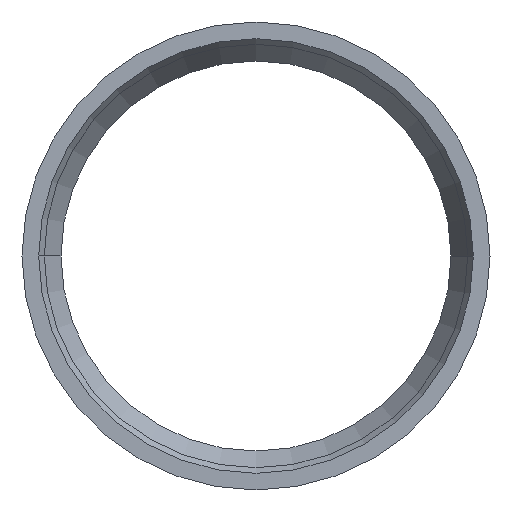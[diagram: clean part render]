
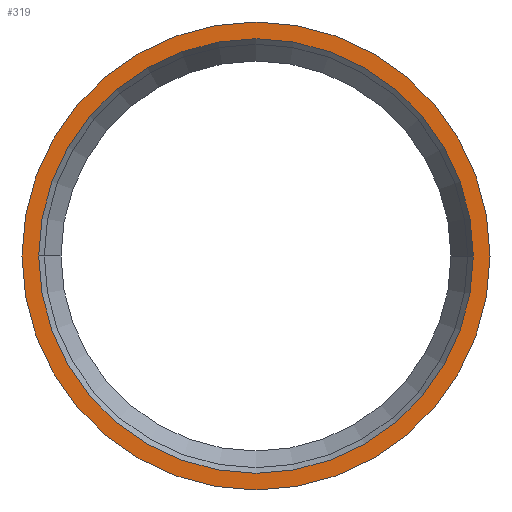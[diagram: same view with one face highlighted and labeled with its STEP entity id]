
A CAD part, left-side view. The second image highlights one B-rep face of the part: STEP entity #319.
In plain terms, the highlighted planar face has unit normal (-1, 0, 0).
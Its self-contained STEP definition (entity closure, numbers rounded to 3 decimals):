
#15 = AXIS2_PLACEMENT_3D ( 'NONE', #157, #155, #154 ) ;
#22 = EDGE_CURVE ( 'NONE', #151, #282, #42, .T. ) ;
#42 = CIRCLE ( 'NONE', #390, 21. ) ;
#47 = EDGE_CURVE ( 'NONE', #282, #151, #428, .T. ) ;
#57 = EDGE_CURVE ( 'NONE', #386, #204, #89, .T. ) ;
#70 = CIRCLE ( 'NONE', #467, 19.5 ) ;
#89 = CIRCLE ( 'NONE', #186, 19.5 ) ;
#115 = CARTESIAN_POINT ( 'NONE',  ( -998.75, 0., -19.5 ) ) ;
#130 = DIRECTION ( 'NONE',  ( 0., 0., -1. ) ) ;
#136 = DIRECTION ( 'NONE',  ( 1., 0., 0. ) ) ;
#146 = CARTESIAN_POINT ( 'NONE',  ( -998.75, 0., 0. ) ) ;
#151 = VERTEX_POINT ( 'NONE', #286 ) ;
#152 = EDGE_LOOP ( 'NONE', ( #314, #396 ) ) ;
#154 = DIRECTION ( 'NONE',  ( 0., 0., -1. ) ) ;
#155 = DIRECTION ( 'NONE',  ( 1., 0., 0. ) ) ;
#157 = CARTESIAN_POINT ( 'NONE',  ( -998.75, 0., 0. ) ) ;
#163 = PLANE ( 'NONE',  #15 ) ;
#164 = CARTESIAN_POINT ( 'NONE',  ( -998.75, 0., 21. ) ) ;
#166 = ORIENTED_EDGE ( 'NONE', *, *, #57, .T. ) ;
#175 = EDGE_LOOP ( 'NONE', ( #252, #166 ) ) ;
#186 = AXIS2_PLACEMENT_3D ( 'NONE', #339, #338, #337 ) ;
#204 = VERTEX_POINT ( 'NONE', #246 ) ;
#208 = AXIS2_PLACEMENT_3D ( 'NONE', #373, #372, #371 ) ;
#246 = CARTESIAN_POINT ( 'NONE',  ( -998.75, 0., 19.5 ) ) ;
#252 = ORIENTED_EDGE ( 'NONE', *, *, #392, .T. ) ;
#282 = VERTEX_POINT ( 'NONE', #164 ) ;
#286 = CARTESIAN_POINT ( 'NONE',  ( -998.75, 0., -21. ) ) ;
#314 = ORIENTED_EDGE ( 'NONE', *, *, #47, .F. ) ;
#319 = ADVANCED_FACE ( 'NONE', ( #461, #385 ), #163, .F. ) ;
#337 = DIRECTION ( 'NONE',  ( 0., 0., -1. ) ) ;
#338 = DIRECTION ( 'NONE',  ( 1., 0., 0. ) ) ;
#339 = CARTESIAN_POINT ( 'NONE',  ( -998.75, 0., 0. ) ) ;
#371 = DIRECTION ( 'NONE',  ( 0., 0., -1. ) ) ;
#372 = DIRECTION ( 'NONE',  ( 1., 0., 0. ) ) ;
#373 = CARTESIAN_POINT ( 'NONE',  ( -998.75, 0., 0. ) ) ;
#385 = FACE_OUTER_BOUND ( 'NONE', #152, .T. ) ;
#386 = VERTEX_POINT ( 'NONE', #115 ) ;
#390 = AXIS2_PLACEMENT_3D ( 'NONE', #429, #425, #421 ) ;
#392 = EDGE_CURVE ( 'NONE', #204, #386, #70, .T. ) ;
#396 = ORIENTED_EDGE ( 'NONE', *, *, #22, .F. ) ;
#421 = DIRECTION ( 'NONE',  ( 0., 0., -1. ) ) ;
#425 = DIRECTION ( 'NONE',  ( 1., 0., 0. ) ) ;
#428 = CIRCLE ( 'NONE', #208, 21. ) ;
#429 = CARTESIAN_POINT ( 'NONE',  ( -998.75, 0., 0. ) ) ;
#461 = FACE_BOUND ( 'NONE', #175, .T. ) ;
#467 = AXIS2_PLACEMENT_3D ( 'NONE', #146, #136, #130 ) ;
